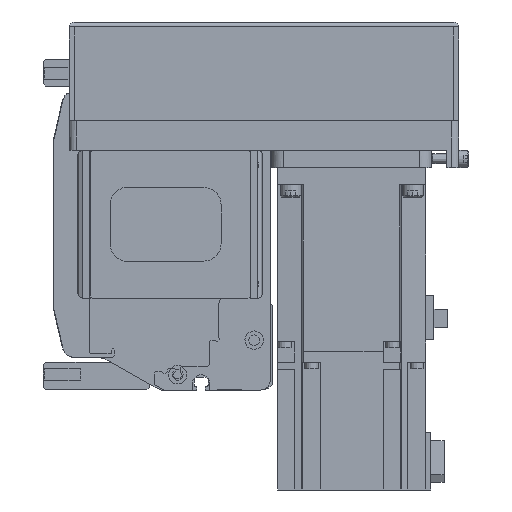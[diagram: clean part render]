
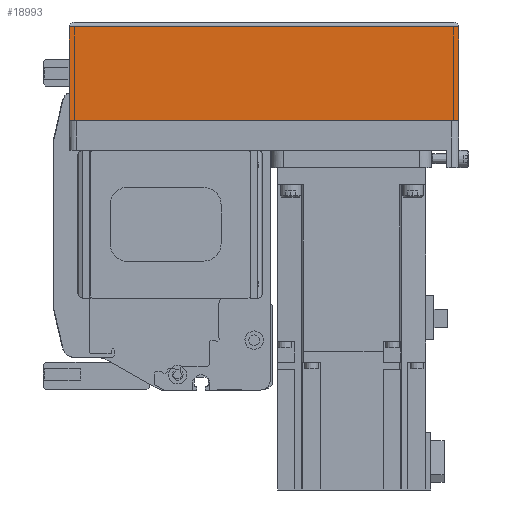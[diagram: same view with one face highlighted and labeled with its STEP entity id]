
A CAD part, left-side view. The second image highlights one B-rep face of the part: STEP entity #18993.
In plain terms, the highlighted planar face has unit normal (-1, 0, 0) as drawn and (0, -1, 0) by its records, which use the part's own axes.
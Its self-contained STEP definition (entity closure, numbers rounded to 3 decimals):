
#2934=ORIENTED_EDGE('',*,*,#7609,.F.);
#2935=ORIENTED_EDGE('',*,*,#7591,.F.);
#2936=ORIENTED_EDGE('',*,*,#7626,.T.);
#2937=ORIENTED_EDGE('',*,*,#7681,.T.);
#7591=EDGE_CURVE('',#10119,#10120,#12061,.T.);
#7609=EDGE_CURVE('',#10120,#10136,#12079,.T.);
#7626=EDGE_CURVE('',#10119,#10146,#12092,.T.);
#7681=EDGE_CURVE('',#10146,#10136,#12120,.T.);
#10119=VERTEX_POINT('',#29090);
#10120=VERTEX_POINT('',#29091);
#10136=VERTEX_POINT('',#29128);
#10146=VERTEX_POINT('',#29158);
#12061=LINE('',#29089,#13751);
#12079=LINE('',#29127,#13769);
#12092=LINE('',#29159,#13782);
#12120=LINE('',#29257,#13810);
#13751=VECTOR('',#23279,1000.);
#13769=VECTOR('',#23303,1000.);
#13782=VECTOR('',#23332,1000.);
#13810=VECTOR('',#23460,1000.);
#15329=EDGE_LOOP('',(#2934,#2935,#2936,#2937));
#16859=FACE_BOUND('',#15329,.T.);
#18216=PLANE('',#20374);
#18993=ADVANCED_FACE('',(#16859),#18216,.T.);
#20374=AXIS2_PLACEMENT_3D('',#29258,#23461,#23462);
#23279=DIRECTION('',(1.,0.,0.));
#23303=DIRECTION('',(0.,0.,-1.));
#23332=DIRECTION('',(0.,0.,-1.));
#23460=DIRECTION('',(1.,0.,0.));
#23461=DIRECTION('',(0.,-1.,0.));
#23462=DIRECTION('',(0.,0.,-1.));
#29089=CARTESIAN_POINT('',(-158.,-39.,-12.1));
#29090=CARTESIAN_POINT('',(-158.,-39.,-12.1));
#29091=CARTESIAN_POINT('',(0.,-39.,-12.1));
#29127=CARTESIAN_POINT('',(0.,-39.,-12.1));
#29128=CARTESIAN_POINT('',(0.,-39.,-50.));
#29158=CARTESIAN_POINT('',(-158.,-39.,-50.));
#29159=CARTESIAN_POINT('',(-158.,-39.,-12.1));
#29257=CARTESIAN_POINT('',(-158.,-39.,-50.));
#29258=CARTESIAN_POINT('',(-158.,-39.,-12.1));
